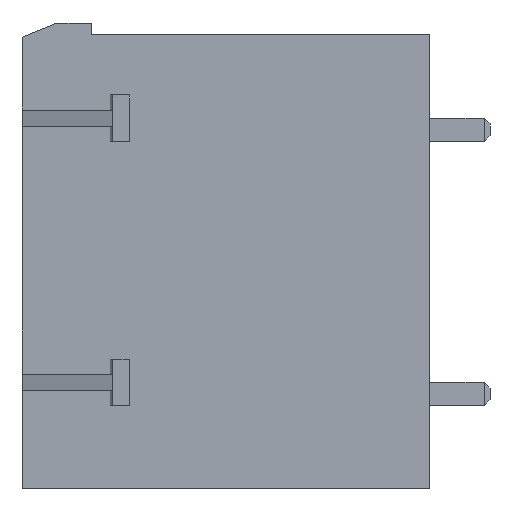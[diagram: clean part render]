
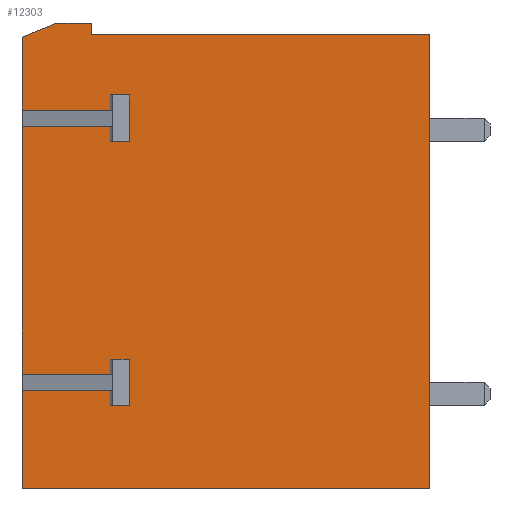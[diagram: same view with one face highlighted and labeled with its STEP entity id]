
A CAD part, left-side view. The second image highlights one B-rep face of the part: STEP entity #12303.
In plain terms, the highlighted planar face has unit normal (-1, 0, 0).
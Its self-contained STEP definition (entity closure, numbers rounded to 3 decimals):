
#1800=DIRECTION('',(0.,0.,1.));
#1801=VECTOR('',#1800,19.6);
#1802=CARTESIAN_POINT('',(-1.4,0.,-8.7));
#1803=LINE('',#1802,#1801);
#3017=DIRECTION('',(0.,0.,-1.));
#3018=VECTOR('',#3017,0.65);
#3019=CARTESIAN_POINT('',(-1.4,13.8,6.95));
#3020=LINE('',#3019,#3018);
#3021=DIRECTION('',(0.,-1.,0.));
#3022=VECTOR('',#3021,0.7);
#3023=CARTESIAN_POINT('',(-1.4,13.8,6.3));
#3024=LINE('',#3023,#3022);
#3025=DIRECTION('',(0.,0.,-1.));
#3026=VECTOR('',#3025,0.65);
#3027=CARTESIAN_POINT('',(-1.4,13.8,8.3));
#3028=LINE('',#3027,#3026);
#3029=DIRECTION('',(0.,1.,0.));
#3030=VECTOR('',#3029,3.8);
#3031=CARTESIAN_POINT('',(-1.4,13.8,7.65));
#3032=LINE('',#3031,#3030);
#3033=DIRECTION('',(0.,0.,1.));
#3034=VECTOR('',#3033,3.15);
#3035=CARTESIAN_POINT('',(-1.4,17.6,7.65));
#3036=LINE('',#3035,#3034);
#3037=DIRECTION('',(0.,-0.928,0.371));
#3038=VECTOR('',#3037,1.616);
#3039=CARTESIAN_POINT('',(-1.4,17.6,10.8));
#3040=LINE('',#3039,#3038);
#3041=DIRECTION('',(0.,-1.,0.));
#3042=VECTOR('',#3041,14.6);
#3043=CARTESIAN_POINT('',(-1.4,14.6,10.9));
#3044=LINE('',#3043,#3042);
#3045=DIRECTION('',(0.,1.,0.));
#3046=VECTOR('',#3045,17.6);
#3047=CARTESIAN_POINT('',(-1.4,0.,-8.7));
#3048=LINE('',#3047,#3046);
#3049=DIRECTION('',(0.,0.,1.));
#3050=VECTOR('',#3049,4.25);
#3051=CARTESIAN_POINT('',(-1.4,17.6,-8.7));
#3052=LINE('',#3051,#3050);
#3053=DIRECTION('',(0.,-1.,0.));
#3054=VECTOR('',#3053,3.8);
#3055=CARTESIAN_POINT('',(-1.4,17.6,-4.45));
#3056=LINE('',#3055,#3054);
#3057=DIRECTION('',(0.,-1.,0.));
#3058=VECTOR('',#3057,0.7);
#3059=CARTESIAN_POINT('',(-1.4,13.8,-5.1));
#3060=LINE('',#3059,#3058);
#3061=DIRECTION('',(0.,0.,1.));
#3062=VECTOR('',#3061,2.);
#3063=CARTESIAN_POINT('',(-1.4,13.1,-5.1));
#3064=LINE('',#3063,#3062);
#3065=DIRECTION('',(0.,0.,1.));
#3066=VECTOR('',#3065,10.7);
#3067=CARTESIAN_POINT('',(-1.4,17.6,-3.75));
#3068=LINE('',#3067,#3066);
#3077=DIRECTION('',(0.,1.,0.));
#3078=VECTOR('',#3077,3.8);
#3079=CARTESIAN_POINT('',(-1.4,13.8,6.95));
#3080=LINE('',#3079,#3078);
#3101=DIRECTION('',(0.,-1.,0.));
#3102=VECTOR('',#3101,0.7);
#3103=CARTESIAN_POINT('',(-1.4,13.8,8.3));
#3104=LINE('',#3103,#3102);
#3109=DIRECTION('',(0.,0.,-1.));
#3110=VECTOR('',#3109,2.);
#3111=CARTESIAN_POINT('',(-1.4,13.1,8.3));
#3112=LINE('',#3111,#3110);
#3145=DIRECTION('',(0.,1.,0.));
#3146=VECTOR('',#3145,1.5);
#3147=CARTESIAN_POINT('',(-1.4,14.6,11.4));
#3148=LINE('',#3147,#3146);
#3173=DIRECTION('',(0.,0.,1.));
#3174=VECTOR('',#3173,0.5);
#3175=CARTESIAN_POINT('',(-1.4,14.6,10.9));
#3176=LINE('',#3175,#3174);
#3882=DIRECTION('',(0.,0.,1.));
#3883=VECTOR('',#3882,0.65);
#3884=CARTESIAN_POINT('',(-1.4,13.8,-3.75));
#3885=LINE('',#3884,#3883);
#3886=DIRECTION('',(0.,-1.,0.));
#3887=VECTOR('',#3886,3.8);
#3888=CARTESIAN_POINT('',(-1.4,17.6,-3.75));
#3889=LINE('',#3888,#3887);
#3898=DIRECTION('',(0.,-1.,0.));
#3899=VECTOR('',#3898,0.7);
#3900=CARTESIAN_POINT('',(-1.4,13.8,-3.1));
#3901=LINE('',#3900,#3899);
#3926=DIRECTION('',(0.,0.,1.));
#3927=VECTOR('',#3926,0.65);
#3928=CARTESIAN_POINT('',(-1.4,13.8,-5.1));
#3929=LINE('',#3928,#3927);
#6677=CARTESIAN_POINT('',(-1.4,14.6,11.4));
#6679=VERTEX_POINT('',#6677);
#6680=CARTESIAN_POINT('',(-1.4,16.1,11.4));
#6681=VERTEX_POINT('',#6680);
#6693=CARTESIAN_POINT('',(-1.4,14.6,10.9));
#6695=VERTEX_POINT('',#6693);
#6696=CARTESIAN_POINT('',(-1.4,0.,10.9));
#6698=VERTEX_POINT('',#6696);
#6704=CARTESIAN_POINT('',(-1.4,0.,-8.7));
#6705=VERTEX_POINT('',#6704);
#6750=CARTESIAN_POINT('',(-1.4,17.6,-8.7));
#6752=VERTEX_POINT('',#6750);
#6790=CARTESIAN_POINT('',(-1.4,17.6,10.8));
#6791=VERTEX_POINT('',#6790);
#6792=CARTESIAN_POINT('',(-1.4,17.6,7.65));
#6793=VERTEX_POINT('',#6792);
#6794=CARTESIAN_POINT('',(-1.4,17.6,6.95));
#6795=VERTEX_POINT('',#6794);
#6796=CARTESIAN_POINT('',(-1.4,17.6,-3.75));
#6797=VERTEX_POINT('',#6796);
#6798=CARTESIAN_POINT('',(-1.4,17.6,-4.45));
#6799=VERTEX_POINT('',#6798);
#6960=CARTESIAN_POINT('',(-1.4,13.8,6.95));
#6961=VERTEX_POINT('',#6960);
#6962=CARTESIAN_POINT('',(-1.4,13.8,6.3));
#6963=VERTEX_POINT('',#6962);
#6964=CARTESIAN_POINT('',(-1.4,13.1,6.3));
#6965=VERTEX_POINT('',#6964);
#6966=CARTESIAN_POINT('',(-1.4,13.1,8.3));
#6967=VERTEX_POINT('',#6966);
#6968=CARTESIAN_POINT('',(-1.4,13.8,8.3));
#6969=VERTEX_POINT('',#6968);
#6970=CARTESIAN_POINT('',(-1.4,13.8,7.65));
#6971=VERTEX_POINT('',#6970);
#6972=CARTESIAN_POINT('',(-1.4,13.8,-4.45));
#6973=VERTEX_POINT('',#6972);
#6974=CARTESIAN_POINT('',(-1.4,13.8,-5.1));
#6975=VERTEX_POINT('',#6974);
#6976=CARTESIAN_POINT('',(-1.4,13.1,-5.1));
#6977=VERTEX_POINT('',#6976);
#6978=CARTESIAN_POINT('',(-1.4,13.1,-3.1));
#6979=VERTEX_POINT('',#6978);
#6980=CARTESIAN_POINT('',(-1.4,13.8,-3.1));
#6981=VERTEX_POINT('',#6980);
#6982=CARTESIAN_POINT('',(-1.4,13.8,-3.75));
#6983=VERTEX_POINT('',#6982);
#12255=CARTESIAN_POINT('',(-1.4,17.6,11.4));
#12256=DIRECTION('',(-1.,0.,0.));
#12257=DIRECTION('',(0.,-1.,0.));
#12258=AXIS2_PLACEMENT_3D('',#12255,#12256,#12257);
#12259=PLANE('',#12258);
#12261=ORIENTED_EDGE('',*,*,#12260,.F.);
#12263=ORIENTED_EDGE('',*,*,#12262,.T.);
#12265=ORIENTED_EDGE('',*,*,#12264,.T.);
#12267=ORIENTED_EDGE('',*,*,#12266,.F.);
#12269=ORIENTED_EDGE('',*,*,#12268,.F.);
#12271=ORIENTED_EDGE('',*,*,#12270,.T.);
#12273=ORIENTED_EDGE('',*,*,#12272,.T.);
#12274=ORIENTED_EDGE('',*,*,#9455,.T.);
#12276=ORIENTED_EDGE('',*,*,#12275,.T.);
#12278=ORIENTED_EDGE('',*,*,#12277,.F.);
#12280=ORIENTED_EDGE('',*,*,#12279,.F.);
#12282=ORIENTED_EDGE('',*,*,#12281,.T.);
#12283=ORIENTED_EDGE('',*,*,#10448,.F.);
#12284=ORIENTED_EDGE('',*,*,#9378,.T.);
#12285=ORIENTED_EDGE('',*,*,#9463,.T.);
#12287=ORIENTED_EDGE('',*,*,#12286,.T.);
#12289=ORIENTED_EDGE('',*,*,#12288,.F.);
#12291=ORIENTED_EDGE('',*,*,#12290,.T.);
#12293=ORIENTED_EDGE('',*,*,#12292,.T.);
#12295=ORIENTED_EDGE('',*,*,#12294,.F.);
#12297=ORIENTED_EDGE('',*,*,#12296,.F.);
#12299=ORIENTED_EDGE('',*,*,#12298,.F.);
#12300=ORIENTED_EDGE('',*,*,#9459,.T.);
#12301=EDGE_LOOP('',(#12261,#12263,#12265,#12267,#12269,#12271,#12273,#12274,
#12276,#12278,#12280,#12282,#12283,#12284,#12285,#12287,#12289,#12291,#12293,
#12295,#12297,#12299,#12300));
#12302=FACE_OUTER_BOUND('',#12301,.F.);
#12303=ADVANCED_FACE('',(#12302),#12259,.T.);
#9378=EDGE_CURVE('',#6705,#6752,#3048,.T.);
#9455=EDGE_CURVE('',#6793,#6791,#3036,.T.);
#9459=EDGE_CURVE('',#6797,#6795,#3068,.T.);
#9463=EDGE_CURVE('',#6752,#6799,#3052,.T.);
#10448=EDGE_CURVE('',#6705,#6698,#1803,.T.);
#12260=EDGE_CURVE('',#6961,#6795,#3080,.T.);
#12262=EDGE_CURVE('',#6961,#6963,#3020,.T.);
#12264=EDGE_CURVE('',#6963,#6965,#3024,.T.);
#12266=EDGE_CURVE('',#6967,#6965,#3112,.T.);
#12268=EDGE_CURVE('',#6969,#6967,#3104,.T.);
#12270=EDGE_CURVE('',#6969,#6971,#3028,.T.);
#12272=EDGE_CURVE('',#6971,#6793,#3032,.T.);
#12275=EDGE_CURVE('',#6791,#6681,#3040,.T.);
#12277=EDGE_CURVE('',#6679,#6681,#3148,.T.);
#12279=EDGE_CURVE('',#6695,#6679,#3176,.T.);
#12281=EDGE_CURVE('',#6695,#6698,#3044,.T.);
#12286=EDGE_CURVE('',#6799,#6973,#3056,.T.);
#12288=EDGE_CURVE('',#6975,#6973,#3929,.T.);
#12290=EDGE_CURVE('',#6975,#6977,#3060,.T.);
#12292=EDGE_CURVE('',#6977,#6979,#3064,.T.);
#12294=EDGE_CURVE('',#6981,#6979,#3901,.T.);
#12296=EDGE_CURVE('',#6983,#6981,#3885,.T.);
#12298=EDGE_CURVE('',#6797,#6983,#3889,.T.);
